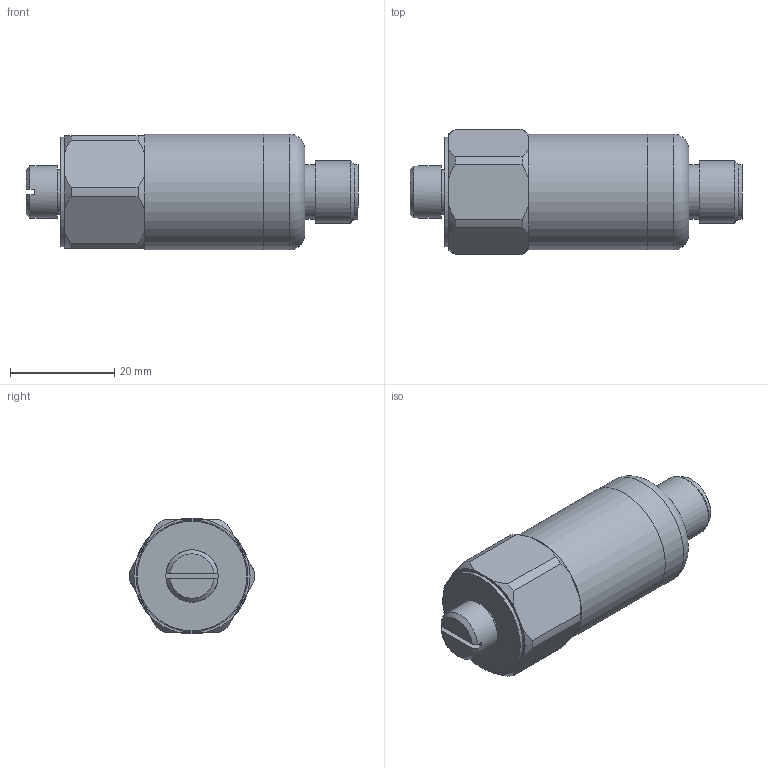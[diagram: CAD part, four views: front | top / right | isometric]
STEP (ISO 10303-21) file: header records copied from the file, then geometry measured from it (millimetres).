
FILE_DESCRIPTION(/* description */ (''),/* implementation_level */ '2;1');
FILE_NAME(/* name */ 'Z:\Engineering\Drawings\3D Library\Assemblies\Website\Premium Top\HS-150 Top M12\HS-150XXX5410.stp',/* time_stamp */ '2023-03-12T11:22:39+00:00',/* author */ ('Ricardo.Peneda'),/* organization */ (''),/* preprocessor_version */ 'ST-DEVELOPER v18.1',/* originating_system */ 'Autodesk Inventor 2021',/* authorisation */ '');
FILE_SCHEMA (('AUTOMOTIVE_DESIGN { 1 0 10303 214 3 1 1 }'));
Length unit declared in the file: inch
Products named in the file (1): HS-150XXX5410_Shrinkwrap_1
Bounding box: 63.59 x 23.99 x 22.2 mm (x, y, z)
Volume: 13505.5 mm3; surface area: 7642.3 mm2
Topology: 3 solids, 3 shells, 81 faces, 212 edges, 152 vertices
Faces by surface type: plane 41, cylinder 25, cone 14, torus 1
Full cylindrical faces by diameter (mm): 5 x1, 5.359 x1, 6.35 x1, 7 x1, 7.5 x1, 8.5 x1, 9.4 x2, 10 x1, 10.496 x1, 10.5 x1, 12 x1, 15.055 x1, 18 x1, 19.95 x1, 20 x1, 21 x1, 22.2 x2
Entity records: 2683 total; most frequent: CARTESIAN_POINT 509, DIRECTION 459, ORIENTED_EDGE 422, EDGE_CURVE 211, AXIS2_PLACEMENT_3D 198, VERTEX_POINT 152, CIRCLE 116, EDGE_LOOP 97
